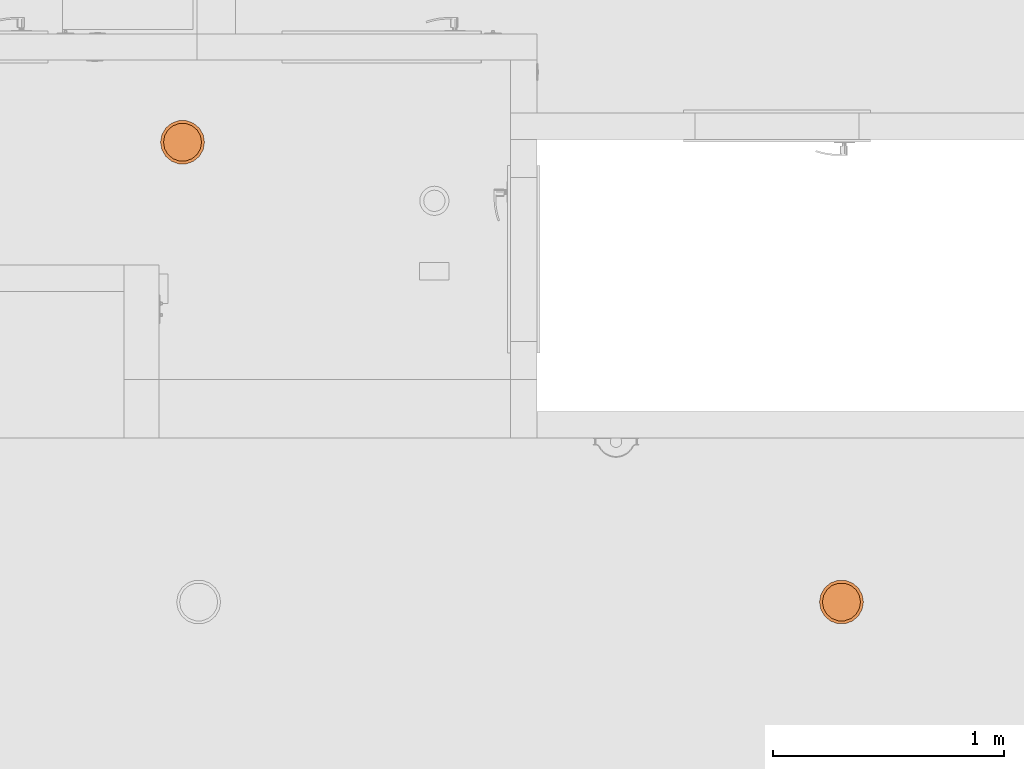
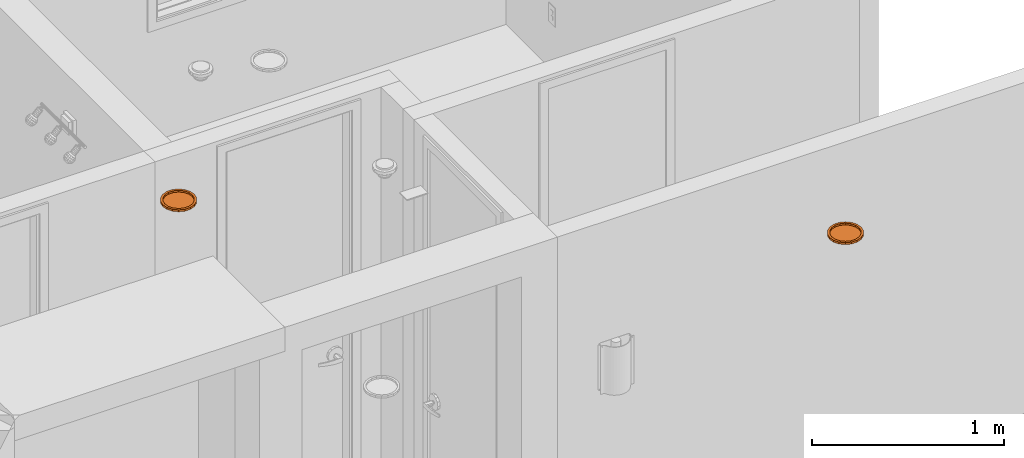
# One storey, part 31 of 48: 2 proxies.
"""IFC2X3 building model written with IfcOpenShell, lengths in inches."""

from ifc_helpers import new_model, entity, si_unit, converted_unit, derived_unit, money_unit, direction, frame, origin_with_axes, place, context, subcontext, project, spatial, open_shell, faceted_brep, surface_model, source, transform, mapped, type_object, element, save


model = new_model("IFC2X3")

# Units and contexts
model_context = context("Model", 3, precision=0.00039370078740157, world=origin_with_axes(), true_north=direction((0.0, 1.0)))
plan_context = context("Plan", 3, precision=0.00039370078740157, world=origin_with_axes(), true_north=direction((0.0, 1.0)))
body_context = subcontext(model_context, "Body", "Model", "MODEL_VIEW")
ifc_project = project(units=[converted_unit("LENGTHUNIT", "INCH", entity("IfcPositiveLengthMeasure", 0.0254), si_unit("LENGTHUNIT", "METRE"), dimensions=[1, 0, 0, 0, 0, 0, 0]), converted_unit("AREAUNIT", "SQUARE_FOOT", entity("IfcPositiveLengthMeasure", 0.09290304), si_unit("AREAUNIT", "SQUARE_METRE"), dimensions=[2, 0, 0, 0, 0, 0, 0]), si_unit("PLANEANGLEUNIT", "RADIAN"), si_unit("SOLIDANGLEUNIT", "STERADIAN"), money_unit("USD"), converted_unit("TIMEUNIT", "Year", entity("IfcTimeMeasure", 31557600.0), si_unit("TIMEUNIT", "SECOND"), dimensions=[0, 0, 1, 0, 0, 0, 0]), si_unit("MASSUNIT", "GRAM", prefix="KILO"), si_unit("THERMODYNAMICTEMPERATUREUNIT", "DEGREE_CELSIUS"), si_unit("LUMINOUSINTENSITYUNIT", "LUMEN"), si_unit("ENERGYUNIT", "JOULE", prefix="MEGA"), derived_unit("SPECIFICHEATCAPACITYUNIT", [(si_unit("ENERGYUNIT", "JOULE"), 1), (si_unit("MASSUNIT", "GRAM", prefix="KILO"), -1), (si_unit("THERMODYNAMICTEMPERATUREUNIT", "KELVIN"), -1)])], contexts=[model_context, plan_context])

# Site, building, storey
site_placement = place(None, origin_with_axes())
site = spatial("IfcSite", under=ifc_project, at=site_placement, Name="Site", CompositionType="ELEMENT")
building_placement = place(site_placement, origin_with_axes())
building = spatial("IfcBuilding", under=site, at=building_placement, Name="Building", CompositionType="ELEMENT")
storey_placement = place(building_placement, origin_with_axes())
storey = spatial("IfcBuildingStorey", under=building, at=storey_placement, Name="First Floor", CompositionType="ELEMENT", Elevation=0.0)

# Proxies
building_element_proxy_type = type_object("IfcBuildingElementProxyType", Name="Recessed Spot", PredefinedType="NOTDEFINED")
shared_shape = source(origin_with_axes(), body_context, "Body", "SurfaceModel", [
    faceted_brep([(3.749999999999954, 0.0, -0.4999999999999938), (3.523847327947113, 1.282575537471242, -0.4999999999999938), (3.523847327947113, 1.282575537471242, 0.0), (3.749999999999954, 0.0, 0.0), (3.523847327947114, -1.282575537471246, -0.4999999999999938), (2.872666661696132, -2.410453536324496, -0.4999999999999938), (1.874999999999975, -3.247595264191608, -0.4999999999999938), (0.6511806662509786, -3.693029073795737, -0.4999999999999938), (-0.6511806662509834, -3.693029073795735, -0.4999999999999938), (-1.87499999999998, -3.247595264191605, -0.4999999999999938), (-2.872666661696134, -2.410453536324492, -0.4999999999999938), (-3.523847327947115, -1.282575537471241, -0.4999999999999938), (-3.749999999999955, 0.0, -0.4999999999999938), (-3.523847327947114, 1.282575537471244, -0.4999999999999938), (-2.872666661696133, 2.410453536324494, -0.4999999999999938), (-1.874999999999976, 3.247595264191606, -0.4999999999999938), (-0.6511806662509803, 3.693029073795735, -0.4999999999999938), (0.6511806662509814, 3.693029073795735, -0.4999999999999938), (1.874999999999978, 3.247595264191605, -0.4999999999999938), (2.872666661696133, 2.410453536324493, -0.4999999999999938), (3.24999999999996, 0.0, -0.4999999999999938), (3.054001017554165, 1.11156546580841, -0.4999999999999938), (2.489644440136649, 2.089059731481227, -0.4999999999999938), (1.62499999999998, 2.814582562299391, -0.4999999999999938), (0.5643565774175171, 3.200625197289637, -0.4999999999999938), (-0.5643565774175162, 3.200625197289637, -0.4999999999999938), (-1.62499999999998, 2.814582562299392, -0.4999999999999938), (-2.489644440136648, 2.089059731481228, -0.4999999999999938), (-3.054001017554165, 1.111565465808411, -0.4999999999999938), (-3.24999999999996, 0.0, -0.4999999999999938), (-3.054001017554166, -1.111565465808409, -0.4999999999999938), (-2.48964444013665, -2.089059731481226, -0.4999999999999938), (-1.624999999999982, -2.814582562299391, -0.4999999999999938), (-0.5643565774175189, -3.200625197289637, -0.4999999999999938), (0.5643565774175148, -3.200625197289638, -0.4999999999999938), (1.624999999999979, -2.814582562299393, -0.4999999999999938), (2.489644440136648, -2.08905973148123, -0.4999999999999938), (3.054001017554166, -1.111565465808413, -0.4999999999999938), (2.872666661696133, 2.410453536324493, 0.0), (1.874999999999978, 3.247595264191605, 0.0), (0.6511806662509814, 3.693029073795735, 0.0), (-0.6511806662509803, 3.693029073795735, 0.0), (-1.874999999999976, 3.247595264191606, 0.0), (-2.872666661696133, 2.410453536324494, 0.0), (-3.523847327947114, 1.282575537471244, 0.0), (-3.749999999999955, 0.0, 0.0), (-3.523847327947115, -1.282575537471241, 0.0), (-2.872666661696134, -2.410453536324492, 0.0), (-1.87499999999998, -3.247595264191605, 0.0), (-0.6511806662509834, -3.693029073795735, 0.0), (0.6511806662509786, -3.693029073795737, 0.0), (1.874999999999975, -3.247595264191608, 0.0), (2.872666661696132, -2.410453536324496, 0.0), (3.523847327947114, -1.282575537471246, 0.0), (3.24999999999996, 0.0, 0.0), (3.054001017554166, -1.111565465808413, 0.0), (2.489644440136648, -2.08905973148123, 0.0), (1.624999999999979, -2.814582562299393, 0.0), (0.5643565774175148, -3.200625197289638, 0.0), (-0.5643565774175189, -3.200625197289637, 0.0), (-1.624999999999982, -2.814582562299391, 0.0), (-2.48964444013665, -2.089059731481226, 0.0), (-3.054001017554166, -1.111565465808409, 0.0), (-3.24999999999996, 0.0, 0.0), (-3.054001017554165, 1.111565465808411, 0.0), (-2.489644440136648, 2.089059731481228, 0.0), (-1.62499999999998, 2.814582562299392, 0.0), (-0.5643565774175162, 3.200625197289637, 0.0), (0.5643565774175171, 3.200625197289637, 0.0), (1.62499999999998, 2.814582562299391, 0.0), (2.489644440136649, 2.089059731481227, 0.0), (3.054001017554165, 1.11156546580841, 0.0)], [[[0, 1, 2, 3]], [[0, 4, 5, 6, 7, 8, 9, 10, 11, 12, 13, 14, 15, 16, 17, 18, 19, 1], [20, 21, 22, 23, 24, 25, 26, 27, 28, 29, 30, 31, 32, 33, 34, 35, 36, 37]], [[1, 19, 38, 2]], [[3, 2, 38, 39, 40, 41, 42, 43, 44, 45, 46, 47, 48, 49, 50, 51, 52, 53], [54, 55, 56, 57, 58, 59, 60, 61, 62, 63, 64, 65, 66, 67, 68, 69, 70, 71]], [[4, 0, 3, 53]], [[5, 4, 53, 52]], [[6, 5, 52, 51]], [[7, 6, 51, 50]], [[8, 7, 50, 49]], [[9, 8, 49, 48]], [[10, 9, 48, 47]], [[11, 10, 47, 46]], [[12, 11, 46, 45]], [[13, 12, 45, 44]], [[14, 13, 44, 43]], [[15, 14, 43, 42]], [[16, 15, 42, 41]], [[17, 16, 41, 40]], [[18, 17, 40, 39]], [[19, 18, 39, 38]], [[21, 20, 54, 71]], [[22, 21, 71, 70]], [[23, 22, 70, 69]], [[24, 23, 69, 68]], [[25, 24, 68, 67]], [[26, 25, 67, 66]], [[27, 26, 66, 65]], [[28, 27, 65, 64]], [[29, 28, 64, 63]], [[30, 29, 63, 62]], [[31, 30, 62, 61]], [[32, 31, 61, 60]], [[33, 32, 60, 59]], [[34, 33, 59, 58]], [[35, 34, 58, 57]], [[36, 35, 57, 56]], [[37, 36, 56, 55]], [[20, 37, 55, 54]]]),
    surface_model("IfcShellBasedSurfaceModel", [(3.24999999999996, 0.0, -0.4460629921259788), (3.054001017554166, -1.111565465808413, -0.4460629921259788), (2.489644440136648, -2.08905973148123, -0.4460629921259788), (1.624999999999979, -2.814582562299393, -0.4460629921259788), (0.5643565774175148, -3.200625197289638, -0.4460629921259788), (-0.5643565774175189, -3.200625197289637, -0.4460629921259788), (-1.624999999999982, -2.814582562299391, -0.4460629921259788), (-2.48964444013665, -2.089059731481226, -0.4460629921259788), (-3.054001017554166, -1.111565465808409, -0.4460629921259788), (-3.24999999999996, 0.0, -0.4460629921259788), (-3.054001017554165, 1.111565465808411, -0.4460629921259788), (-2.489644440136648, 2.089059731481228, -0.4460629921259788), (-1.62499999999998, 2.814582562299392, -0.4460629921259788), (-0.5643565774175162, 3.200625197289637, -0.4460629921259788), (0.5643565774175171, 3.200625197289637, -0.4460629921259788), (1.62499999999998, 2.814582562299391, -0.4460629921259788), (2.489644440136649, 2.089059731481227, -0.4460629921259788), (3.054001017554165, 1.11156546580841, -0.4460629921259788)], [open_shell([[[0, 1, 2, 3, 4, 5, 6, 7, 8, 9, 10, 11, 12, 13, 14, 15, 16, 17]]])]),
])
for number, where, z_axis, x_axis, name in (
    (1, (52.50000000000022, 329.4999999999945, 100.9999999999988), (0.0, 0.0, 1.0), (1.0, 0.0, 0.0), "L-03"),
    (2, (-59.99999999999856, 407.9999999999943, 100.9999999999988), (0.0, 0.0, 1.0), (1.0, 0.0, 0.0), "L-03"),
):
    element("IfcBuildingElementProxy", number, at=place(storey_placement, frame(where, z_axis=z_axis, x_axis=x_axis)), inside=storey, type_object=building_element_proxy_type, Name=name, context=body_context, shape_type="MappedRepresentation", body=[
        mapped(shared_shape, transform((0.0, 0.0, 0.0))),
    ])

save(model, "model.ifc")
